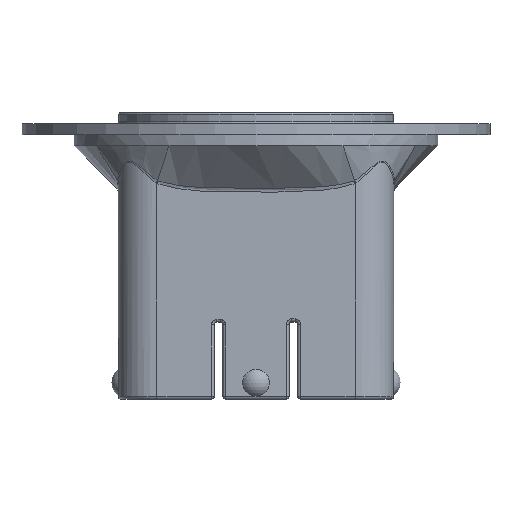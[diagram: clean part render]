
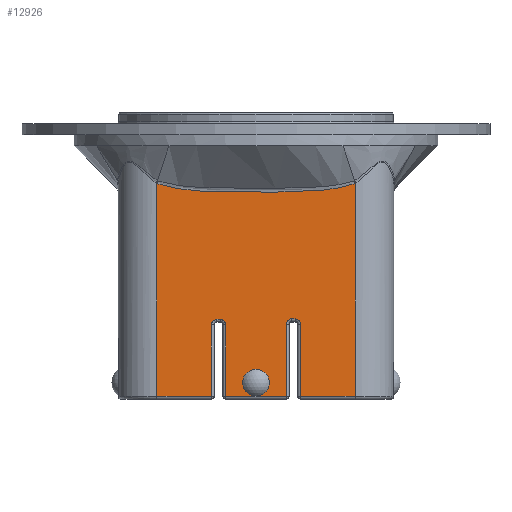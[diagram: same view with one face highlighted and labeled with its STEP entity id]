
A CAD part, left-side view. The second image highlights one B-rep face of the part: STEP entity #12926.
In plain terms, the highlighted planar face has unit normal (-1, 0, 0).
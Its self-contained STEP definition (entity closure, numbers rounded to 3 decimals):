
#480=FACE_BOUND('',#1789,.T.);
#568=PLANE('',#13660);
#959=FACE_OUTER_BOUND('',#1788,.T.);
#1788=EDGE_LOOP('',(#10185,#10186,#10187,#10188,#10189,#10190,#10191,#10192,
#10193,#10194,#10195,#10196,#10197,#10198,#10199,#10200));
#1789=EDGE_LOOP('',(#10201));
#2759=B_SPLINE_CURVE_WITH_KNOTS('',3,(#24065,#24066,#24067,#24068,#24069,
#24070,#24071,#24072,#24073,#24074,#24075,#24076,#24077,#24078,#24079,#24080,
#24081,#24082),.UNSPECIFIED.,.F.,.F.,(4,2,2,2,2,2,2,2,4),(-4.29,
-3.579,-2.872,-2.43,-2.154,
-1.878,-1.436,-0.835,-0.01),
 .UNSPECIFIED.);
#3389=LINE('',#29069,#4374);
#3390=LINE('',#29071,#4375);
#3391=LINE('',#29073,#4376);
#3392=LINE('',#29077,#4377);
#3393=LINE('',#29081,#4378);
#3394=LINE('',#29083,#4379);
#3395=LINE('',#29085,#4380);
#3396=LINE('',#29089,#4381);
#3397=LINE('',#29093,#4382);
#3398=LINE('',#29095,#4383);
#3399=LINE('',#29096,#4384);
#4374=VECTOR('',#15123,1.);
#4375=VECTOR('',#15124,1.);
#4376=VECTOR('',#15125,1.);
#4377=VECTOR('',#15128,1.);
#4378=VECTOR('',#15131,1.);
#4379=VECTOR('',#15132,1.);
#4380=VECTOR('',#15133,1.);
#4381=VECTOR('',#15136,1.);
#4382=VECTOR('',#15139,1.);
#4383=VECTOR('',#15140,1.);
#4384=VECTOR('',#15141,1.);
#5009=CIRCLE('',#13661,1.);
#5010=CIRCLE('',#13662,1.);
#5011=CIRCLE('',#13663,1.);
#5012=CIRCLE('',#13664,1.);
#5013=CIRCLE('',#13665,2.437);
#5975=VERTEX_POINT('',#24062);
#5976=VERTEX_POINT('',#24064);
#6029=VERTEX_POINT('',#29068);
#6030=VERTEX_POINT('',#29070);
#6031=VERTEX_POINT('',#29072);
#6032=VERTEX_POINT('',#29074);
#6033=VERTEX_POINT('',#29076);
#6034=VERTEX_POINT('',#29078);
#6035=VERTEX_POINT('',#29080);
#6036=VERTEX_POINT('',#29082);
#6037=VERTEX_POINT('',#29084);
#6038=VERTEX_POINT('',#29086);
#6039=VERTEX_POINT('',#29088);
#6040=VERTEX_POINT('',#29090);
#6041=VERTEX_POINT('',#29092);
#6042=VERTEX_POINT('',#29094);
#6043=VERTEX_POINT('',#29097);
#7455=EDGE_CURVE('',#5975,#5976,#2759,.T.);
#7530=EDGE_CURVE('',#6029,#5975,#3389,.T.);
#7531=EDGE_CURVE('',#6030,#6029,#3390,.T.);
#7532=EDGE_CURVE('',#6031,#6030,#3391,.T.);
#7533=EDGE_CURVE('',#6032,#6031,#5009,.T.);
#7534=EDGE_CURVE('',#6033,#6032,#3392,.T.);
#7535=EDGE_CURVE('',#6034,#6033,#5010,.T.);
#7536=EDGE_CURVE('',#6035,#6034,#3393,.T.);
#7537=EDGE_CURVE('',#6036,#6035,#3394,.T.);
#7538=EDGE_CURVE('',#6037,#6036,#3395,.T.);
#7539=EDGE_CURVE('',#6038,#6037,#5011,.T.);
#7540=EDGE_CURVE('',#6039,#6038,#3396,.T.);
#7541=EDGE_CURVE('',#6040,#6039,#5012,.T.);
#7542=EDGE_CURVE('',#6041,#6040,#3397,.T.);
#7543=EDGE_CURVE('',#6042,#6041,#3398,.T.);
#7544=EDGE_CURVE('',#5976,#6042,#3399,.T.);
#7545=EDGE_CURVE('',#6043,#6043,#5013,.T.);
#10185=ORIENTED_EDGE('',*,*,#7455,.F.);
#10186=ORIENTED_EDGE('',*,*,#7530,.F.);
#10187=ORIENTED_EDGE('',*,*,#7531,.F.);
#10188=ORIENTED_EDGE('',*,*,#7532,.F.);
#10189=ORIENTED_EDGE('',*,*,#7533,.F.);
#10190=ORIENTED_EDGE('',*,*,#7534,.F.);
#10191=ORIENTED_EDGE('',*,*,#7535,.F.);
#10192=ORIENTED_EDGE('',*,*,#7536,.F.);
#10193=ORIENTED_EDGE('',*,*,#7537,.F.);
#10194=ORIENTED_EDGE('',*,*,#7538,.F.);
#10195=ORIENTED_EDGE('',*,*,#7539,.F.);
#10196=ORIENTED_EDGE('',*,*,#7540,.F.);
#10197=ORIENTED_EDGE('',*,*,#7541,.F.);
#10198=ORIENTED_EDGE('',*,*,#7542,.F.);
#10199=ORIENTED_EDGE('',*,*,#7543,.F.);
#10200=ORIENTED_EDGE('',*,*,#7544,.F.);
#10201=ORIENTED_EDGE('',*,*,#7545,.T.);
#12926=ADVANCED_FACE('',(#959,#480),#568,.T.);
#13660=AXIS2_PLACEMENT_3D('',#29067,#15121,#15122);
#13661=AXIS2_PLACEMENT_3D('',#29075,#15126,#15127);
#13662=AXIS2_PLACEMENT_3D('',#29079,#15129,#15130);
#13663=AXIS2_PLACEMENT_3D('',#29087,#15134,#15135);
#13664=AXIS2_PLACEMENT_3D('',#29091,#15137,#15138);
#13665=AXIS2_PLACEMENT_3D('',#29098,#15142,#15143);
#15121=DIRECTION('center_axis',(-1.,0.,0.));
#15122=DIRECTION('ref_axis',(0.,1.,0.));
#15123=DIRECTION('',(0.,0.,1.));
#15124=DIRECTION('',(0.,1.,0.));
#15125=DIRECTION('',(0.,0.,-1.));
#15126=DIRECTION('center_axis',(-1.,0.,0.));
#15127=DIRECTION('ref_axis',(0.,0.707,0.707));
#15128=DIRECTION('',(0.,1.,0.));
#15129=DIRECTION('center_axis',(-1.,0.,0.));
#15130=DIRECTION('ref_axis',(0.,-0.707,0.707));
#15131=DIRECTION('',(0.,0.,1.));
#15132=DIRECTION('',(0.,1.,0.));
#15133=DIRECTION('',(0.,0.,-1.));
#15134=DIRECTION('center_axis',(-1.,0.,0.));
#15135=DIRECTION('ref_axis',(0.,0.707,0.707));
#15136=DIRECTION('',(0.,1.,0.));
#15137=DIRECTION('center_axis',(-1.,0.,0.));
#15138=DIRECTION('ref_axis',(0.,-0.707,0.707));
#15139=DIRECTION('',(0.,0.,1.));
#15140=DIRECTION('',(0.,1.,0.));
#15141=DIRECTION('',(0.,0.,-1.));
#15142=DIRECTION('center_axis',(1.,0.,0.));
#15143=DIRECTION('ref_axis',(0.,0.,-1.));
#24062=CARTESIAN_POINT('',(0.,43.,39.165));
#24064=CARTESIAN_POINT('',(0.,7.,39.165));
#24065=CARTESIAN_POINT('Ctrl Pts',(0.,43.,39.165));
#24066=CARTESIAN_POINT('Ctrl Pts',(0.,41.774,
38.743));
#24067=CARTESIAN_POINT('Ctrl Pts',(0.,40.446,
38.429));
#24068=CARTESIAN_POINT('Ctrl Pts',(0.,37.518,
37.965));
#24069=CARTESIAN_POINT('Ctrl Pts',(0.,35.921,
37.816));
#24070=CARTESIAN_POINT('Ctrl Pts',(0.,33.045,
37.67));
#24071=CARTESIAN_POINT('Ctrl Pts',(0.,31.872,
37.637));
#24072=CARTESIAN_POINT('Ctrl Pts',(0.,29.843,
37.605));
#24073=CARTESIAN_POINT('Ctrl Pts',(0.,29.033,
37.597));
#24074=CARTESIAN_POINT('Ctrl Pts',(0.,27.35,
37.588));
#24075=CARTESIAN_POINT('Ctrl Pts',(0.,26.478,
37.587));
#24076=CARTESIAN_POINT('Ctrl Pts',(0.,24.12,
37.585));
#24077=CARTESIAN_POINT('Ctrl Pts',(0.,22.623,
37.586));
#24078=CARTESIAN_POINT('Ctrl Pts',(0.,19.123,
37.612));
#24079=CARTESIAN_POINT('Ctrl Pts',(0.,17.103,
37.644));
#24080=CARTESIAN_POINT('Ctrl Pts',(0.,12.349,
37.94));
#24081=CARTESIAN_POINT('Ctrl Pts',(0.,9.6,
38.269));
#24082=CARTESIAN_POINT('Ctrl Pts',(0.,7.,
39.165));
#29067=CARTESIAN_POINT('Origin',(0.,25.,0.));
#29068=CARTESIAN_POINT('',(0.,43.,0.5));
#29069=CARTESIAN_POINT('',(0.,43.,0.));
#29070=CARTESIAN_POINT('',(0.,33.087,0.5));
#29071=CARTESIAN_POINT('',(0.,25.,0.5));
#29072=CARTESIAN_POINT('',(0.,33.087,13.5));
#29073=CARTESIAN_POINT('',(0.,33.087,3.5));
#29074=CARTESIAN_POINT('',(0.,32.087,14.5));
#29075=CARTESIAN_POINT('Origin',(0.,32.087,
13.5));
#29076=CARTESIAN_POINT('',(0.,31.5,14.5));
#29077=CARTESIAN_POINT('',(0.,28.397,14.5));
#29078=CARTESIAN_POINT('',(0.,30.5,13.5));
#29079=CARTESIAN_POINT('Origin',(0.,31.5,
13.5));
#29080=CARTESIAN_POINT('',(0.,30.5,0.5));
#29081=CARTESIAN_POINT('',(0.,30.5,3.5));
#29082=CARTESIAN_POINT('',(0.,19.5,0.5));
#29083=CARTESIAN_POINT('',(0.,25.,0.5));
#29084=CARTESIAN_POINT('',(0.,19.5,13.604));
#29085=CARTESIAN_POINT('',(0.,19.5,3.5));
#29086=CARTESIAN_POINT('',(0.,18.5,14.604));
#29087=CARTESIAN_POINT('Origin',(0.,18.5,
13.604));
#29088=CARTESIAN_POINT('',(0.,17.912,14.604));
#29089=CARTESIAN_POINT('',(0.,21.603,14.604));
#29090=CARTESIAN_POINT('',(0.,16.912,13.604));
#29091=CARTESIAN_POINT('Origin',(0.,17.912,
13.604));
#29092=CARTESIAN_POINT('',(0.,16.912,0.5));
#29093=CARTESIAN_POINT('',(0.,16.912,3.5));
#29094=CARTESIAN_POINT('',(0.,7.,0.5));
#29095=CARTESIAN_POINT('',(0.,25.,0.5));
#29096=CARTESIAN_POINT('',(0.,7.,0.));
#29097=CARTESIAN_POINT('',(0.,25.,5.437));
#29098=CARTESIAN_POINT('Origin',(0.,25.,
3.));
